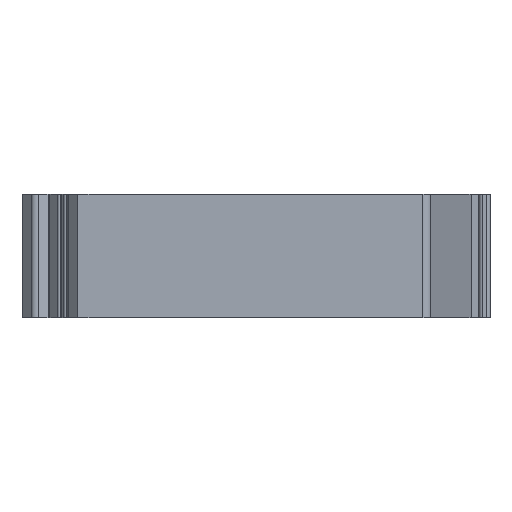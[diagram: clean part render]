
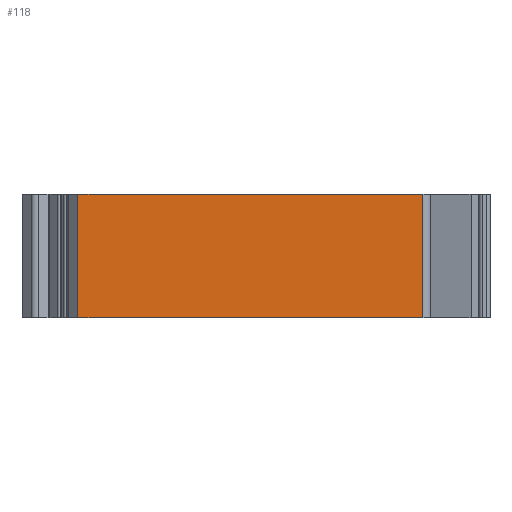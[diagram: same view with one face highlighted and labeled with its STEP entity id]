
A CAD part, left-side view. The second image highlights one B-rep face of the part: STEP entity #118.
In plain terms, the highlighted planar face has unit normal (-1, 0, 0).
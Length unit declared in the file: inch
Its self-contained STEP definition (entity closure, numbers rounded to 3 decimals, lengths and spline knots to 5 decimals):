
#118=ADVANCED_FACE('',(#290),#209,.T.);
#209=PLANE('',#2102);
#290=FACE_OUTER_BOUND('',#391,.T.);
#391=EDGE_LOOP('',(#860,#861,#862,#863));
#860=ORIENTED_EDGE('',*,*,#1297,.F.);
#861=ORIENTED_EDGE('',*,*,#1482,.F.);
#862=ORIENTED_EDGE('',*,*,#1389,.T.);
#863=ORIENTED_EDGE('',*,*,#1483,.T.);
#1107=VERTEX_POINT('',#2785);
#1108=VERTEX_POINT('',#2787);
#1197=VERTEX_POINT('',#2969);
#1198=VERTEX_POINT('',#2971);
#1297=EDGE_CURVE('',#1107,#1108,#1574,.T.);
#1389=EDGE_CURVE('',#1198,#1197,#1642,.T.);
#1482=EDGE_CURVE('',#1198,#1107,#1723,.T.);
#1483=EDGE_CURVE('',#1197,#1108,#1724,.T.);
#1574=LINE('',#2786,#1811);
#1642=LINE('',#2970,#1879);
#1723=LINE('',#3156,#1960);
#1724=LINE('',#3158,#1961);
#1811=VECTOR('',#2214,1.);
#1879=VECTOR('',#2334,1.);
#1960=VECTOR('',#2529,1.);
#1961=VECTOR('',#2532,1.);
#2102=AXIS2_PLACEMENT_3D('',#3159,#2533,#2534);
#2214=DIRECTION('',(0.,-1.,0.));
#2334=DIRECTION('',(0.,-1.,0.));
#2529=DIRECTION('',(0.,0.,1.));
#2532=DIRECTION('',(0.,0.,1.));
#2533=DIRECTION('',(-1.,0.,0.));
#2534=DIRECTION('',(0.,-1.,0.));
#2785=CARTESIAN_POINT('',(280.54057,76.76048,0.39764));
#2786=CARTESIAN_POINT('',(280.54057,76.76048,0.39764));
#2787=CARTESIAN_POINT('',(280.54057,74.54176,0.39764));
#2969=CARTESIAN_POINT('',(280.54057,74.54176,-0.39764));
#2970=CARTESIAN_POINT('',(280.54057,75.10896,-0.39764));
#2971=CARTESIAN_POINT('',(280.54057,76.76048,-0.39764));
#3156=CARTESIAN_POINT('',(280.54057,76.76048,-0.39764));
#3158=CARTESIAN_POINT('',(280.54057,74.54176,-0.39764));
#3159=CARTESIAN_POINT('',(280.54057,76.76048,0.));
